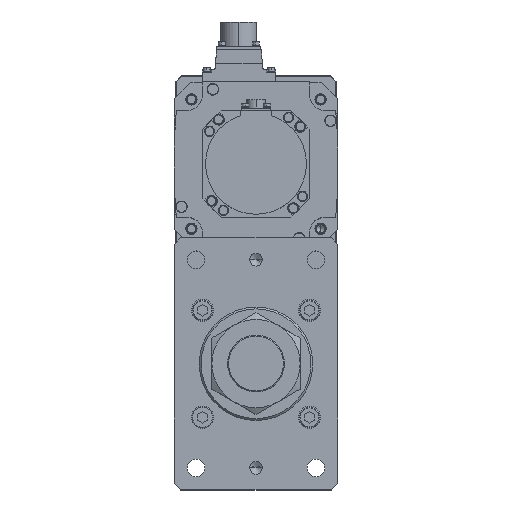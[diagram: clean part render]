
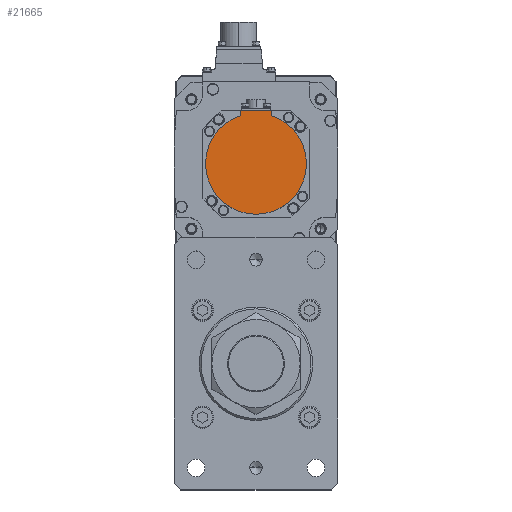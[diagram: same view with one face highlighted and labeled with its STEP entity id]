
A CAD part, top view. The second image highlights one B-rep face of the part: STEP entity #21665.
In plain terms, the highlighted planar face has unit normal (0, 0, 1) as drawn and (0, 0, -1) by its records, which use the part's own axes.
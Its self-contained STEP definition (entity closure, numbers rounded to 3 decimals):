
#282 = AXIS2_PLACEMENT_3D ( 'NONE', #11352, #30036, #13713 ) ;
#927 = DIRECTION ( 'NONE',  ( 0., 1., 0. ) ) ;
#1368 = ORIENTED_EDGE ( 'NONE', *, *, #12537, .F. ) ;
#1479 = ORIENTED_EDGE ( 'NONE', *, *, #17790, .F. ) ;
#2185 = CARTESIAN_POINT ( 'NONE',  ( 12., -42.5, -146.5 ) ) ;
#2351 = VERTEX_POINT ( 'NONE', #20063 ) ;
#2759 = CARTESIAN_POINT ( 'NONE',  ( 0., -42.5, -146.5 ) ) ;
#4359 = VECTOR ( 'NONE', #11243, 1000. ) ;
#5301 = CARTESIAN_POINT ( 'NONE',  ( 12., -1.249, -146.5 ) ) ;
#5706 = VERTEX_POINT ( 'NONE', #15758 ) ;
#5812 = LINE ( 'NONE', #5301, #13293 ) ;
#6790 = VERTEX_POINT ( 'NONE', #7131 ) ;
#7131 = CARTESIAN_POINT ( 'NONE',  ( 12., -38.158, -146.5 ) ) ;
#7246 = CARTESIAN_POINT ( 'NONE',  ( 0., -1.249, -146.5 ) ) ;
#7967 = DIRECTION ( 'NONE',  ( 0., 1., 0. ) ) ;
#8338 = AXIS2_PLACEMENT_3D ( 'NONE', #12687, #22536, #9194 ) ;
#8663 = CARTESIAN_POINT ( 'NONE',  ( -12., -40.329, -146.5 ) ) ;
#9194 = DIRECTION ( 'NONE',  ( 1., 0., 0. ) ) ;
#9812 = DIRECTION ( 'NONE',  ( 0., 0., 1. ) ) ;
#10261 = CIRCLE ( 'NONE', #21077, 40. ) ;
#10297 = AXIS2_PLACEMENT_3D ( 'NONE', #7246, #9812, #18017 ) ;
#11243 = DIRECTION ( 'NONE',  ( -1., 0., 0. ) ) ;
#11331 = VERTEX_POINT ( 'NONE', #29833 ) ;
#11352 = CARTESIAN_POINT ( 'NONE',  ( 0., 0., -146.5 ) ) ;
#12537 = EDGE_CURVE ( 'NONE', #6790, #2351, #10261, .T. ) ;
#12687 = CARTESIAN_POINT ( 'NONE',  ( 0., 0., -146.5 ) ) ;
#13293 = VECTOR ( 'NONE', #7967, 1000. ) ;
#13713 = DIRECTION ( 'NONE',  ( 1., 0., 0. ) ) ;
#13934 = CARTESIAN_POINT ( 'NONE',  ( 0., 0., -146.5 ) ) ;
#14250 = CARTESIAN_POINT ( 'NONE',  ( -40., 0., -146.5 ) ) ;
#14280 = DIRECTION ( 'NONE',  ( 1., 0., 0. ) ) ;
#14365 = EDGE_CURVE ( 'NONE', #2351, #16287, #15800, .T. ) ;
#15758 = CARTESIAN_POINT ( 'NONE',  ( -12., -42.5, -146.5 ) ) ;
#15800 = CIRCLE ( 'NONE', #282, 40. ) ;
#16019 = FACE_OUTER_BOUND ( 'NONE', #32253, .T. ) ;
#16287 = VERTEX_POINT ( 'NONE', #14250 ) ;
#17638 = VECTOR ( 'NONE', #927, 1000. ) ;
#17790 = EDGE_CURVE ( 'NONE', #31585, #6790, #5812, .T. ) ;
#18017 = DIRECTION ( 'NONE',  ( 1., 0., 0. ) ) ;
#18445 = LINE ( 'NONE', #8663, #17638 ) ;
#18762 = CIRCLE ( 'NONE', #8338, 40. ) ;
#19829 = ORIENTED_EDGE ( 'NONE', *, *, #23070, .T. ) ;
#20063 = CARTESIAN_POINT ( 'NONE',  ( 40., 0., -146.5 ) ) ;
#21077 = AXIS2_PLACEMENT_3D ( 'NONE', #13934, #24939, #14280 ) ;
#21665 = ADVANCED_FACE ( 'NONE', ( #16019 ), #28462, .F. ) ;
#22536 = DIRECTION ( 'NONE',  ( 0., 0., 1. ) ) ;
#23070 = EDGE_CURVE ( 'NONE', #5706, #11331, #18445, .T. ) ;
#24939 = DIRECTION ( 'NONE',  ( 0., 0., 1. ) ) ;
#26818 = ORIENTED_EDGE ( 'NONE', *, *, #28184, .T. ) ;
#28184 = EDGE_CURVE ( 'NONE', #31585, #5706, #29404, .T. ) ;
#28462 = PLANE ( 'NONE',  #10297 ) ;
#29404 = LINE ( 'NONE', #2759, #4359 ) ;
#29643 = ORIENTED_EDGE ( 'NONE', *, *, #31498, .F. ) ;
#29833 = CARTESIAN_POINT ( 'NONE',  ( -12., -38.158, -146.5 ) ) ;
#30036 = DIRECTION ( 'NONE',  ( 0., 0., 1. ) ) ;
#30054 = ORIENTED_EDGE ( 'NONE', *, *, #14365, .F. ) ;
#31498 = EDGE_CURVE ( 'NONE', #16287, #11331, #18762, .T. ) ;
#31585 = VERTEX_POINT ( 'NONE', #2185 ) ;
#32253 = EDGE_LOOP ( 'NONE', ( #19829, #29643, #30054, #1368, #1479, #26818 ) ) ;
